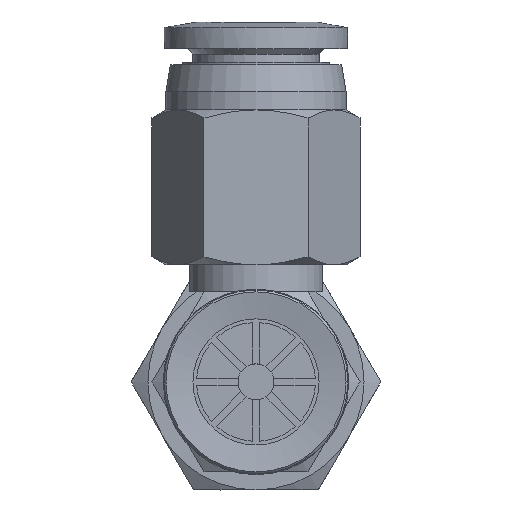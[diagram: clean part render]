
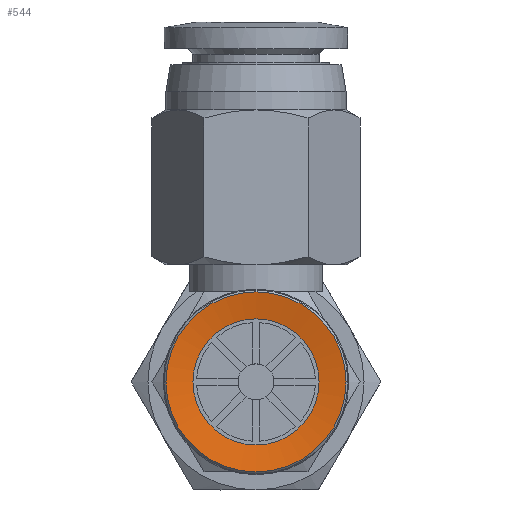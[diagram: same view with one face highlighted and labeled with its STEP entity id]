
A CAD part, front view. The second image highlights one B-rep face of the part: STEP entity #544.
In plain terms, the highlighted conical face has half-angle 80 degrees and reference radius 5 mm.
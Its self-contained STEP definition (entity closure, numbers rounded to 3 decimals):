
#544=ADVANCED_FACE('',(#864,#865),#866,.F.);
#864=FACE_BOUND('',#1327,.T.);
#865=FACE_OUTER_BOUND('',#1328,.T.);
#866=CONICAL_SURFACE('',#1329,5.0,1.396);
#1327=EDGE_LOOP('',(#2374));
#1328=EDGE_LOOP('',(#2375));
#1329=AXIS2_PLACEMENT_3D('',#2376,#2377,#2378);
#2374=ORIENTED_EDGE('',*,*,#3225,.T.);
#2375=ORIENTED_EDGE('',*,*,#3222,.F.);
#2376=CARTESIAN_POINT('',(0.0,0.,0.));
#2377=DIRECTION('',(0.0,0.,-1.0));
#2378=DIRECTION('',(0.0,1.0,0.));
#3222=EDGE_CURVE('',#3690,#3690,#3691,.T.);
#3225=EDGE_CURVE('',#3696,#3696,#3697,.T.);
#3690=VERTEX_POINT('',#4690);
#3691=CIRCLE('',#4691,5.0);
#3696=VERTEX_POINT('',#4696);
#3697=CIRCLE('',#4697,3.5);
#4690=CARTESIAN_POINT('',(0.0,-5.0,0.));
#4691=AXIS2_PLACEMENT_3D('',#5650,#5651,#5652);
#4696=CARTESIAN_POINT('',(0.0,-3.5,0.264));
#4697=AXIS2_PLACEMENT_3D('',#5659,#5660,#5661);
#5650=CARTESIAN_POINT('',(0.0,0.,0.));
#5651=DIRECTION('',(0.0,0.,1.0));
#5652=DIRECTION('',(0.0,-1.0,0.));
#5659=CARTESIAN_POINT('',(0.0,0.,0.264));
#5660=DIRECTION('',(0.0,0.,1.0));
#5661=DIRECTION('',(0.0,-1.0,0.));
